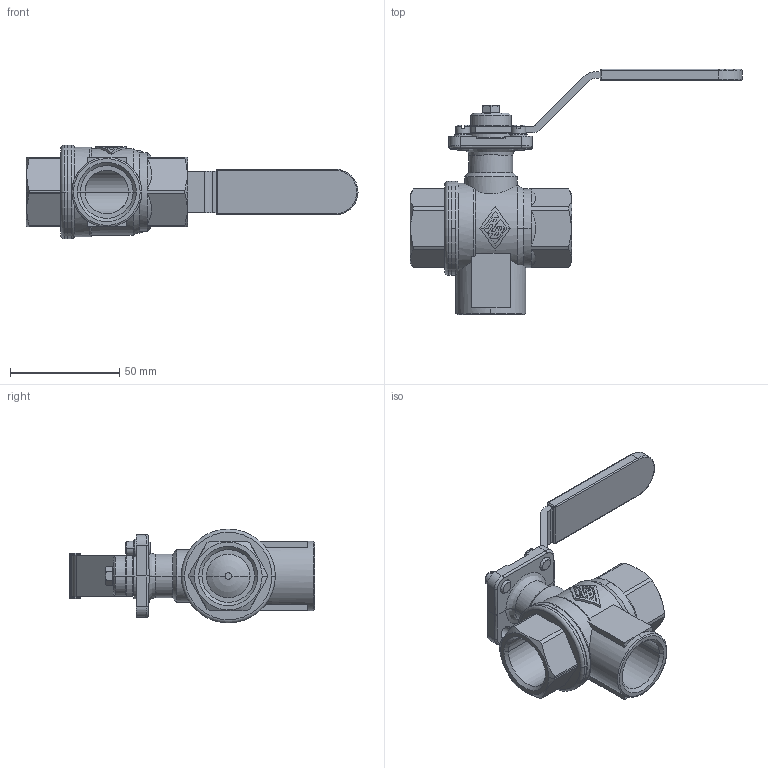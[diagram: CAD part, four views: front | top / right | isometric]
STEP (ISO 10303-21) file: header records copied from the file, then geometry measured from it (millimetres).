
FILE_DESCRIPTION(('CoCreate Modeling STEP Export'),'2;1');
FILE_NAME('3210050000.stp','2010-11-25T11:31:28',(''),(''),'CoCreate Modeling STEP processor for AP214 (Solid Model)','CoCreate Modeling 16.00D 29-May-2009 (C) Parametric Technology GmbH','');
FILE_SCHEMA(('AUTOMOTIVE_DESIGN { 1 0 10303 214 1 1 1 1 }'));
Length unit declared in the file: millimetre
Products named in the file (2): 3210050000
Assembly tree (1 placements, depth 2):
  3210050000
    3210050000
Bounding box: 152 x 112.2 x 43 mm (x, y, z)
Volume: 84279 mm3; surface area: 31425.5 mm2
Topology: 1 solids, 1 shells, 445 faces, 1185 edges, 759 vertices
Faces by surface type: plane 214, cylinder 146, cone 57, bspline 10, torus 10, sphere 6, extrusion 2
Entity records: 20683 total; most frequent: CARTESIAN_POINT 9738, ORIENTED_EDGE 2358, DIRECTION 1691, EDGE_CURVE 1179, VERTEX_POINT 759, VECTOR 647, LINE 645, AXIS2_PLACEMENT_3D 522
